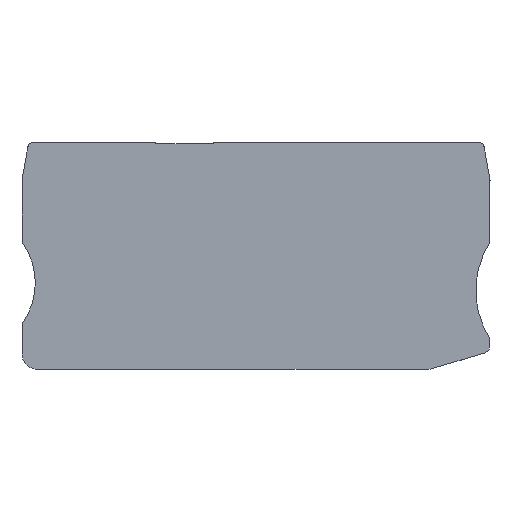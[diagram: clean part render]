
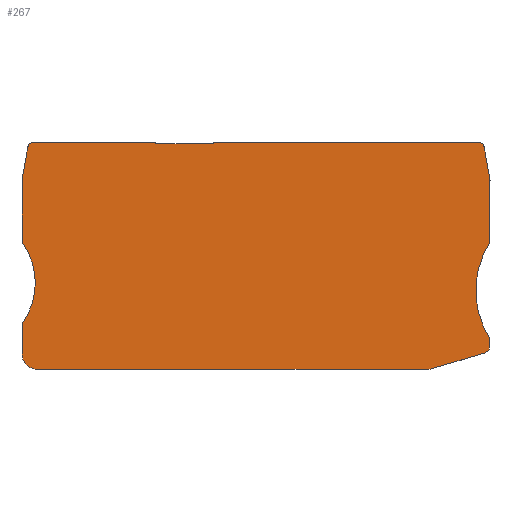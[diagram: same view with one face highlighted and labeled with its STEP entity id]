
A CAD part, top view. The second image highlights one B-rep face of the part: STEP entity #267.
In plain terms, the highlighted planar face has unit normal (0, 0, 1).
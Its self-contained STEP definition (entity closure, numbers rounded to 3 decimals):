
#30=CARTESIAN_POINT('',(-65.921,19.464,7.275));
#31=DIRECTION('',(1.,0.,0.));
#32=DIRECTION('',(0.,0.,1.));
#33=AXIS2_PLACEMENT_3D('',#30,#32,#31);
#34=PLANE('',#33);
#35=CARTESIAN_POINT('',(-74.07,17.914,7.275));
#36=VERTEX_POINT('',#35);
#37=CARTESIAN_POINT('',(-84.926,17.914,7.275));
#38=VERTEX_POINT('',#37);
#39=CARTESIAN_POINT('',(-74.07,17.914,7.275));
#40=DIRECTION('',(-1.,0.,0.));
#41=VECTOR('',#40,10.856);
#42=LINE('',#39,#41);
#43=EDGE_CURVE('',#36,#38,#42,.T.);
#44=ORIENTED_EDGE('',*,*,#43,.T.);
#45=CARTESIAN_POINT('',(-85.02,18.114,7.275));
#46=VERTEX_POINT('',#45);
#47=CARTESIAN_POINT('',(-85.02,18.114,7.275));
#48=DIRECTION('',(0.423,-0.906,0.));
#49=VECTOR('',#48,0.221);
#50=LINE('',#47,#49);
#51=EDGE_CURVE('',#46,#38,#50,.T.);
#52=ORIENTED_EDGE('',*,*,#51,.F.);
#53=CARTESIAN_POINT('',(-108.275,18.114,7.275));
#54=VERTEX_POINT('',#53);
#55=CARTESIAN_POINT('',(-108.275,18.114,7.275));
#56=DIRECTION('',(1.,0.,0.));
#57=VECTOR('',#56,23.255);
#58=LINE('',#55,#57);
#59=EDGE_CURVE('',#54,#46,#58,.T.);
#60=ORIENTED_EDGE('',*,*,#59,.F.);
#61=CARTESIAN_POINT('',(-109.26,17.288,7.275));
#62=VERTEX_POINT('',#61);
#63=CARTESIAN_POINT('',(-108.275,17.114,7.275));
#64=DIRECTION('',(0.,1.,0.));
#65=DIRECTION('',(0.,0.,1.));
#66=AXIS2_PLACEMENT_3D('',#63,#65,#64);
#67=CIRCLE('',#66,1.);
#68=EDGE_CURVE('',#54,#62,#67,.T.);
#69=ORIENTED_EDGE('',*,*,#68,.T.);
#70=CARTESIAN_POINT('',(-110.355,11.074,7.275));
#71=VERTEX_POINT('',#70);
#72=CARTESIAN_POINT('',(-110.355,11.074,7.275));
#73=DIRECTION('',(0.174,0.985,0.));
#74=VECTOR('',#73,6.31);
#75=LINE('',#72,#74);
#76=EDGE_CURVE('',#71,#62,#75,.T.);
#77=ORIENTED_EDGE('',*,*,#76,.F.);
#78=CARTESIAN_POINT('',(-110.371,10.9,7.275));
#79=VERTEX_POINT('',#78);
#80=CARTESIAN_POINT('',(-109.371,10.9,7.275));
#81=DIRECTION('',(-0.985,0.174,0.));
#82=DIRECTION('',(0.,0.,1.));
#83=AXIS2_PLACEMENT_3D('',#80,#82,#81);
#84=CIRCLE('',#83,1.);
#85=EDGE_CURVE('',#71,#79,#84,.T.);
#86=ORIENTED_EDGE('',*,*,#85,.T.);
#87=CARTESIAN_POINT('',(-110.371,-0.468,7.275));
#88=VERTEX_POINT('',#87);
#89=CARTESIAN_POINT('',(-110.371,-0.468,7.275));
#90=DIRECTION('',(0.,1.,0.));
#91=VECTOR('',#90,11.368);
#92=LINE('',#89,#91);
#93=EDGE_CURVE('',#88,#79,#92,.T.);
#94=ORIENTED_EDGE('',*,*,#93,.F.);
#95=CARTESIAN_POINT('',(-110.194,-1.036,7.275));
#96=VERTEX_POINT('',#95);
#97=CARTESIAN_POINT('',(-109.371,-0.468,7.275));
#98=DIRECTION('',(-1.,0.,0.));
#99=DIRECTION('',(0.,0.,1.));
#100=AXIS2_PLACEMENT_3D('',#97,#99,#98);
#101=CIRCLE('',#100,1.);
#102=EDGE_CURVE('',#88,#96,#101,.T.);
#103=ORIENTED_EDGE('',*,*,#102,.T.);
#104=CARTESIAN_POINT('',(-107.856,-8.536,7.275));
#105=VERTEX_POINT('',#104);
#106=CARTESIAN_POINT('',(-121.056,-8.536,7.275));
#107=DIRECTION('',(0.823,0.568,0.));
#108=DIRECTION('',(0.,0.,-1.));
#109=AXIS2_PLACEMENT_3D('',#106,#108,#107);
#110=CIRCLE('',#109,13.2);
#111=EDGE_CURVE('',#96,#105,#110,.T.);
#112=ORIENTED_EDGE('',*,*,#111,.T.);
#113=CARTESIAN_POINT('',(-110.194,-16.036,7.275));
#114=VERTEX_POINT('',#113);
#115=CARTESIAN_POINT('',(-121.056,-8.536,7.275));
#116=DIRECTION('',(1.,0.,0.));
#117=DIRECTION('',(0.,0.,-1.));
#118=AXIS2_PLACEMENT_3D('',#115,#117,#116);
#119=CIRCLE('',#118,13.2);
#120=EDGE_CURVE('',#105,#114,#119,.T.);
#121=ORIENTED_EDGE('',*,*,#120,.T.);
#122=CARTESIAN_POINT('',(-110.371,-16.604,7.275));
#123=VERTEX_POINT('',#122);
#124=CARTESIAN_POINT('',(-109.371,-16.604,7.275));
#125=DIRECTION('',(-0.823,0.568,0.));
#126=DIRECTION('',(0.,0.,1.));
#127=AXIS2_PLACEMENT_3D('',#124,#126,#125);
#128=CIRCLE('',#127,1.);
#129=EDGE_CURVE('',#114,#123,#128,.T.);
#130=ORIENTED_EDGE('',*,*,#129,.T.);
#131=CARTESIAN_POINT('',(-110.371,-21.986,7.275));
#132=VERTEX_POINT('',#131);
#133=CARTESIAN_POINT('',(-110.371,-21.986,7.275));
#134=DIRECTION('',(0.,1.,0.));
#135=VECTOR('',#134,5.382);
#136=LINE('',#133,#135);
#137=EDGE_CURVE('',#132,#123,#136,.T.);
#138=ORIENTED_EDGE('',*,*,#137,.F.);
#139=CARTESIAN_POINT('',(-107.371,-24.986,7.275));
#140=VERTEX_POINT('',#139);
#141=CARTESIAN_POINT('',(-107.371,-21.986,7.275));
#142=DIRECTION('',(-1.,0.,0.));
#143=DIRECTION('',(0.,0.,1.));
#144=AXIS2_PLACEMENT_3D('',#141,#143,#142);
#145=CIRCLE('',#144,3.);
#146=EDGE_CURVE('',#132,#140,#145,.T.);
#147=ORIENTED_EDGE('',*,*,#146,.T.);
#148=CARTESIAN_POINT('',(-33.418,-24.986,7.275));
#149=VERTEX_POINT('',#148);
#150=CARTESIAN_POINT('',(-107.371,-24.986,7.275));
#151=DIRECTION('',(1.,0.,0.));
#152=VECTOR('',#151,73.953);
#153=LINE('',#150,#152);
#154=EDGE_CURVE('',#140,#149,#153,.T.);
#155=ORIENTED_EDGE('',*,*,#154,.T.);
#156=CARTESIAN_POINT('',(-32.56,-24.861,7.275));
#157=VERTEX_POINT('',#156);
#158=CARTESIAN_POINT('',(-33.418,-21.986,7.275));
#159=DIRECTION('',(0.,-1.,0.));
#160=DIRECTION('',(0.,0.,1.));
#161=AXIS2_PLACEMENT_3D('',#158,#160,#159);
#162=CIRCLE('',#161,3.);
#163=EDGE_CURVE('',#149,#157,#162,.T.);
#164=ORIENTED_EDGE('',*,*,#163,.T.);
#165=CARTESIAN_POINT('',(-22.542,-21.87,7.275));
#166=VERTEX_POINT('',#165);
#167=CARTESIAN_POINT('',(-22.542,-21.87,7.275));
#168=DIRECTION('',(-0.958,-0.286,0.));
#169=VECTOR('',#168,10.455);
#170=LINE('',#167,#169);
#171=EDGE_CURVE('',#166,#157,#170,.T.);
#172=ORIENTED_EDGE('',*,*,#171,.F.);
#173=CARTESIAN_POINT('',(-21.471,-20.433,7.275));
#174=VERTEX_POINT('',#173);
#175=CARTESIAN_POINT('',(-22.971,-20.433,7.275));
#176=DIRECTION('',(1.,0.,0.));
#177=DIRECTION('',(0.,0.,-1.));
#178=AXIS2_PLACEMENT_3D('',#175,#177,#176);
#179=CIRCLE('',#178,1.5);
#180=EDGE_CURVE('',#174,#166,#179,.T.);
#181=ORIENTED_EDGE('',*,*,#180,.F.);
#182=CARTESIAN_POINT('',(-21.471,-19.468,7.275));
#183=VERTEX_POINT('',#182);
#184=CARTESIAN_POINT('',(-21.471,-20.433,7.275));
#185=DIRECTION('',(0.,1.,0.));
#186=VECTOR('',#185,0.965);
#187=LINE('',#184,#186);
#188=EDGE_CURVE('',#174,#183,#187,.T.);
#189=ORIENTED_EDGE('',*,*,#188,.T.);
#190=CARTESIAN_POINT('',(-21.621,-18.941,7.275));
#191=VERTEX_POINT('',#190);
#192=CARTESIAN_POINT('',(-22.471,-19.468,7.275));
#193=DIRECTION('',(1.,0.,0.));
#194=DIRECTION('',(0.,0.,1.));
#195=AXIS2_PLACEMENT_3D('',#192,#194,#193);
#196=CIRCLE('',#195,1.);
#197=EDGE_CURVE('',#183,#191,#196,.T.);
#198=ORIENTED_EDGE('',*,*,#197,.T.);
#199=CARTESIAN_POINT('',(-21.621,-1.031,7.275));
#200=VERTEX_POINT('',#199);
#201=CARTESIAN_POINT('',(-7.171,-9.986,7.275));
#202=DIRECTION('',(-0.85,-0.527,0.));
#203=DIRECTION('',(0.,0.,-1.));
#204=AXIS2_PLACEMENT_3D('',#201,#203,#202);
#205=CIRCLE('',#204,17.);
#206=EDGE_CURVE('',#191,#200,#205,.T.);
#207=ORIENTED_EDGE('',*,*,#206,.T.);
#208=CARTESIAN_POINT('',(-21.471,-0.504,7.275));
#209=VERTEX_POINT('',#208);
#210=CARTESIAN_POINT('',(-22.471,-0.504,7.275));
#211=DIRECTION('',(0.85,-0.527,0.));
#212=DIRECTION('',(0.,0.,1.));
#213=AXIS2_PLACEMENT_3D('',#210,#212,#211);
#214=CIRCLE('',#213,1.);
#215=EDGE_CURVE('',#200,#209,#214,.T.);
#216=ORIENTED_EDGE('',*,*,#215,.T.);
#217=CARTESIAN_POINT('',(-21.471,10.9,7.275));
#218=VERTEX_POINT('',#217);
#219=CARTESIAN_POINT('',(-21.471,-0.504,7.275));
#220=DIRECTION('',(0.,1.,0.));
#221=VECTOR('',#220,11.404);
#222=LINE('',#219,#221);
#223=EDGE_CURVE('',#209,#218,#222,.T.);
#224=ORIENTED_EDGE('',*,*,#223,.T.);
#225=CARTESIAN_POINT('',(-21.486,11.074,7.275));
#226=VERTEX_POINT('',#225);
#227=CARTESIAN_POINT('',(-22.471,10.9,7.275));
#228=DIRECTION('',(1.,0.,0.));
#229=DIRECTION('',(0.,0.,1.));
#230=AXIS2_PLACEMENT_3D('',#227,#229,#228);
#231=CIRCLE('',#230,1.);
#232=EDGE_CURVE('',#218,#226,#231,.T.);
#233=ORIENTED_EDGE('',*,*,#232,.T.);
#234=CARTESIAN_POINT('',(-22.582,17.288,7.275));
#235=VERTEX_POINT('',#234);
#236=CARTESIAN_POINT('',(-21.486,11.074,7.275));
#237=DIRECTION('',(-0.174,0.985,0.));
#238=VECTOR('',#237,6.31);
#239=LINE('',#236,#238);
#240=EDGE_CURVE('',#226,#235,#239,.T.);
#241=ORIENTED_EDGE('',*,*,#240,.T.);
#242=CARTESIAN_POINT('',(-23.566,18.114,7.275));
#243=VERTEX_POINT('',#242);
#244=CARTESIAN_POINT('',(-23.566,17.114,7.275));
#245=DIRECTION('',(0.985,0.174,0.));
#246=DIRECTION('',(0.,0.,1.));
#247=AXIS2_PLACEMENT_3D('',#244,#246,#245);
#248=CIRCLE('',#247,1.);
#249=EDGE_CURVE('',#235,#243,#248,.T.);
#250=ORIENTED_EDGE('',*,*,#249,.T.);
#251=CARTESIAN_POINT('',(-74.017,18.114,7.275));
#252=VERTEX_POINT('',#251);
#253=CARTESIAN_POINT('',(-74.017,18.114,7.275));
#254=DIRECTION('',(1.,0.,0.));
#255=VECTOR('',#254,50.45);
#256=LINE('',#253,#255);
#257=EDGE_CURVE('',#252,#243,#256,.T.);
#258=ORIENTED_EDGE('',*,*,#257,.F.);
#259=CARTESIAN_POINT('',(-74.07,17.914,7.275));
#260=DIRECTION('',(0.259,0.966,0.));
#261=VECTOR('',#260,0.207);
#262=LINE('',#259,#261);
#263=EDGE_CURVE('',#36,#252,#262,.T.);
#264=ORIENTED_EDGE('',*,*,#263,.F.);
#265=EDGE_LOOP('',(#44,#52,#60,#69,#77,#86,#94,#103,#112,#121,#130,#138,#147,#155,#164,#172,#181,#189,#198,#207,#216,#224,#233,#241,#250,#258,#264));
#266=FACE_OUTER_BOUND('',#265,.T.);
#267=ADVANCED_FACE('',(#266),#34,.T.);
